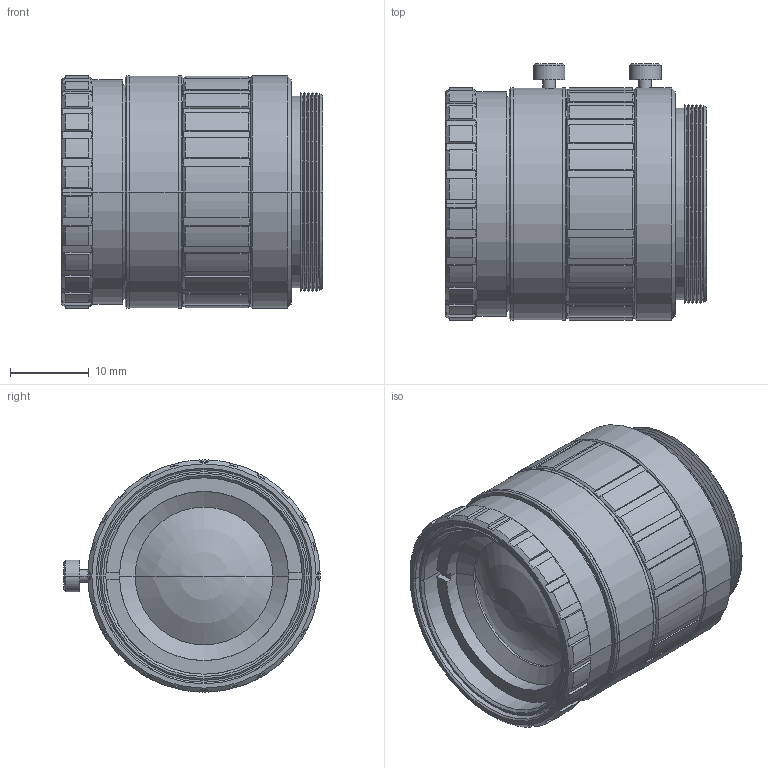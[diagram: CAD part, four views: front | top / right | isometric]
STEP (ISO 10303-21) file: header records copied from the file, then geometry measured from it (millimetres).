
FILE_DESCRIPTION(('CoCreate Modeling STEP Export'),'2;1');
FILE_NAME('HF12.5HA-1B_3D_Modeling.stp','2016-05-11T18:21:51',(''),(''),'CoCreate Modeling STEP processor for AP214 (Solid Model)','CoCreate Modeling 17.0 01-Apr-2010 (C) Parametric Technology GmbH','');
FILE_SCHEMA(('AUTOMOTIVE_DESIGN { 1 0 10303 214 1 1 1 1 }'));
Length unit declared in the file: millimetre
Products named in the file (2): HF12.5HA-1B
Assembly tree (1 placements, depth 2):
  HF12.5HA-1B
    HF12.5HA-1B
Bounding box: 33.2 x 32.55 x 29.5 mm (x, y, z)
Volume: 18906.2 mm3; surface area: 7175.7 mm2
Topology: 1 solids, 1 shells, 338 faces, 894 edges, 571 vertices
Faces by surface type: cylinder 139, plane 131, cone 64, torus 2, sphere 2
Entity records: 12232 total; most frequent: CARTESIAN_POINT 4253, ORIENTED_EDGE 1780, DIRECTION 1299, EDGE_CURVE 890, VERTEX_POINT 571, AXIS2_PLACEMENT_3D 483, EDGE_LOOP 355, FACE_OUTER_BOUND 338
